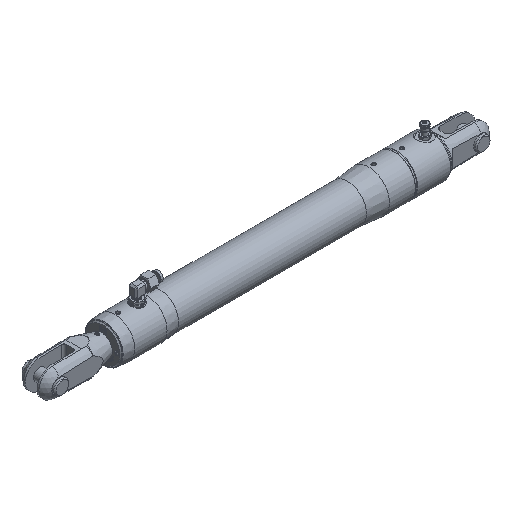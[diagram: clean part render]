
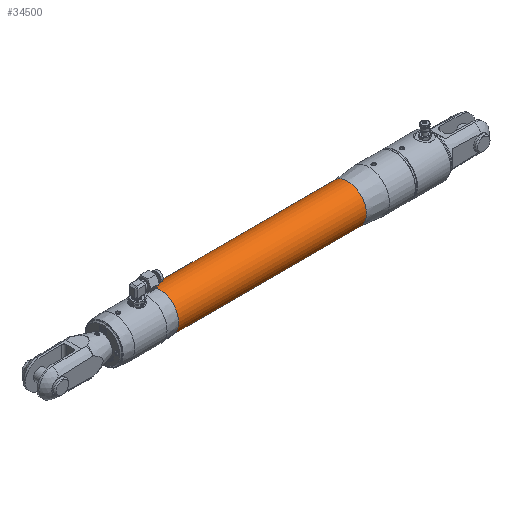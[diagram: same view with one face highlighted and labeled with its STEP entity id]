
A CAD part, isometric view. The second image highlights one B-rep face of the part: STEP entity #34500.
In plain terms, the highlighted cylindrical face has radius 25.4 mm (diameter 50.8 mm), a full revolution.
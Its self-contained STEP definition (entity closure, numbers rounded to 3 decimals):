
#2936=CIRCLE('',#36015,25.4);
#2937=CIRCLE('',#36016,25.4);
#2938=CIRCLE('',#36018,25.4);
#2939=CIRCLE('',#36019,25.4);
#5870=FACE_OUTER_BOUND('',#7807,.T.);
#7807=EDGE_LOOP('',(#31770,#31771,#31772,#31773,#31774,#31775));
#10795=LINE('',#62526,#13775);
#13775=VECTOR('',#41728,25.4);
#18057=VERTEX_POINT('',#62517);
#18058=VERTEX_POINT('',#62518);
#18059=VERTEX_POINT('',#62523);
#18060=VERTEX_POINT('',#62524);
#22684=EDGE_CURVE('',#18057,#18058,#2936,.T.);
#22686=EDGE_CURVE('',#18058,#18057,#2937,.T.);
#22687=EDGE_CURVE('',#18059,#18060,#2938,.T.);
#22688=EDGE_CURVE('',#18060,#18058,#10795,.T.);
#22689=EDGE_CURVE('',#18060,#18059,#2939,.T.);
#31770=ORIENTED_EDGE('',*,*,#22687,.T.);
#31771=ORIENTED_EDGE('',*,*,#22688,.T.);
#31772=ORIENTED_EDGE('',*,*,#22684,.F.);
#31773=ORIENTED_EDGE('',*,*,#22686,.F.);
#31774=ORIENTED_EDGE('',*,*,#22688,.F.);
#31775=ORIENTED_EDGE('',*,*,#22689,.T.);
#32886=CYLINDRICAL_SURFACE('',#36017,25.4);
#34500=ADVANCED_FACE('',(#5870),#32886,.T.);
#36015=AXIS2_PLACEMENT_3D('',#62519,#41719,#41720);
#36016=AXIS2_PLACEMENT_3D('',#62521,#41722,#41723);
#36017=AXIS2_PLACEMENT_3D('',#62522,#41724,#41725);
#36018=AXIS2_PLACEMENT_3D('',#62525,#41726,#41727);
#36019=AXIS2_PLACEMENT_3D('',#62527,#41729,#41730);
#41719=DIRECTION('center_axis',(1.,0.,0.));
#41720=DIRECTION('ref_axis',(0.,0.,
-1.));
#41722=DIRECTION('center_axis',(1.,0.,0.));
#41723=DIRECTION('ref_axis',(0.,0.,
-1.));
#41724=DIRECTION('center_axis',(1.,0.,0.));
#41725=DIRECTION('ref_axis',(0.,0.,
1.));
#41726=DIRECTION('center_axis',(1.,0.,0.));
#41727=DIRECTION('ref_axis',(0.,0.,
-1.));
#41728=DIRECTION('',(1.,0.,0.));
#41729=DIRECTION('center_axis',(1.,0.,0.));
#41730=DIRECTION('ref_axis',(0.,0.,
-1.));
#62517=CARTESIAN_POINT('',(-54.111,0.,25.4));
#62518=CARTESIAN_POINT('',(-54.111,0.,-25.4));
#62519=CARTESIAN_POINT('Origin',(-54.111,0.,
0.));
#62521=CARTESIAN_POINT('Origin',(-54.111,0.,
0.));
#62522=CARTESIAN_POINT('Origin',(-181.172,0.,
0.));
#62523=CARTESIAN_POINT('',(-308.234,0.,25.4));
#62524=CARTESIAN_POINT('',(-308.234,0.,-25.4));
#62525=CARTESIAN_POINT('Origin',(-308.234,0.,
0.));
#62526=CARTESIAN_POINT('',(-181.172,0.,-25.4));
#62527=CARTESIAN_POINT('Origin',(-308.234,0.,
0.));
